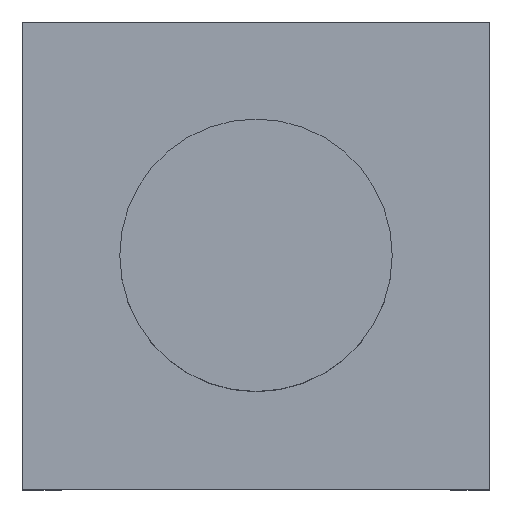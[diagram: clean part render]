
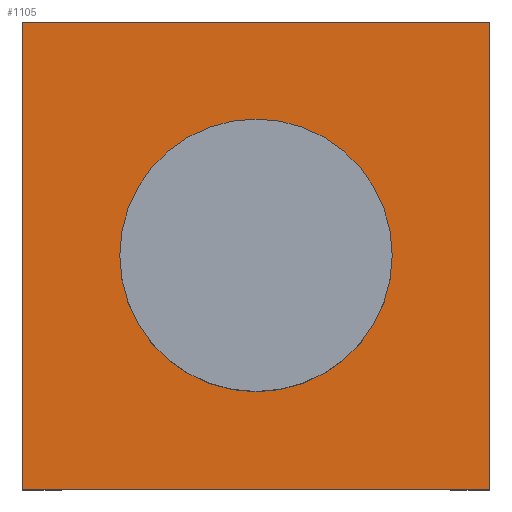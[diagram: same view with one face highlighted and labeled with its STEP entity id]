
A CAD part, top view. The second image highlights one B-rep face of the part: STEP entity #1105.
In plain terms, the highlighted planar face has unit normal (0, 0, 1).
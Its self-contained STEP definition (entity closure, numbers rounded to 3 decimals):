
#10 = EDGE_CURVE ( 'NONE', #691, #807, #1114, .T. ) ;
#16 = CARTESIAN_POINT ( 'NONE',  ( -3., -3., 4. ) ) ;
#87 = CARTESIAN_POINT ( 'NONE',  ( -3., 3., 4. ) ) ;
#100 = DIRECTION ( 'NONE',  ( 0., 1., 0. ) ) ;
#104 = EDGE_CURVE ( 'NONE', #1141, #691, #459, .T. ) ;
#127 = CARTESIAN_POINT ( 'NONE',  ( -1.75, 0., 4. ) ) ;
#161 = CARTESIAN_POINT ( 'NONE',  ( 3., -3., 4. ) ) ;
#198 = DIRECTION ( 'NONE',  ( 0., 0., -1. ) ) ;
#230 = DIRECTION ( 'NONE',  ( 0., -1., 0. ) ) ;
#232 = ORIENTED_EDGE ( 'NONE', *, *, #10, .F. ) ;
#278 = ORIENTED_EDGE ( 'NONE', *, *, #1129, .F. ) ;
#282 = VECTOR ( 'NONE', #230, 1000. ) ;
#284 = VECTOR ( 'NONE', #722, 1000. ) ;
#311 = EDGE_LOOP ( 'NONE', ( #872 ) ) ;
#324 = CARTESIAN_POINT ( 'NONE',  ( 3., 3., 4. ) ) ;
#436 = FACE_OUTER_BOUND ( 'NONE', #1298, .T. ) ;
#446 = CIRCLE ( 'NONE', #1115, 1.75 ) ;
#459 = LINE ( 'NONE', #324, #282 ) ;
#462 = CARTESIAN_POINT ( 'NONE',  ( -3., -3., 4. ) ) ;
#538 = CARTESIAN_POINT ( 'NONE',  ( 0., 0., 4. ) ) ;
#569 = EDGE_CURVE ( 'NONE', #972, #1141, #928, .T. ) ;
#631 = FACE_BOUND ( 'NONE', #311, .T. ) ;
#644 = CARTESIAN_POINT ( 'NONE',  ( 3., -3., 4. ) ) ;
#690 = DIRECTION ( 'NONE',  ( 0., 0., 1. ) ) ;
#691 = VERTEX_POINT ( 'NONE', #644 ) ;
#722 = DIRECTION ( 'NONE',  ( 1., 0., 0. ) ) ;
#784 = CARTESIAN_POINT ( 'NONE',  ( 0., 0., 4. ) ) ;
#805 = VECTOR ( 'NONE', #100, 1000. ) ;
#807 = VERTEX_POINT ( 'NONE', #462 ) ;
#834 = CARTESIAN_POINT ( 'NONE',  ( -3., 3., 4. ) ) ;
#866 = VERTEX_POINT ( 'NONE', #127 ) ;
#872 = ORIENTED_EDGE ( 'NONE', *, *, #1162, .F. ) ;
#898 = DIRECTION ( 'NONE',  ( -1., 0., 0. ) ) ;
#928 = LINE ( 'NONE', #87, #284 ) ;
#972 = VERTEX_POINT ( 'NONE', #834 ) ;
#1105 = ADVANCED_FACE ( 'NONE', ( #631, #436 ), #1158, .F. ) ;
#1114 = LINE ( 'NONE', #161, #1358 ) ;
#1115 = AXIS2_PLACEMENT_3D ( 'NONE', #784, #690, #1207 ) ;
#1127 = CARTESIAN_POINT ( 'NONE',  ( 3., 3., 4. ) ) ;
#1129 = EDGE_CURVE ( 'NONE', #807, #972, #1283, .T. ) ;
#1141 = VERTEX_POINT ( 'NONE', #1127 ) ;
#1158 = PLANE ( 'NONE',  #1235 ) ;
#1162 = EDGE_CURVE ( 'NONE', #866, #866, #446, .T. ) ;
#1207 = DIRECTION ( 'NONE',  ( -1., 0., 0. ) ) ;
#1235 = AXIS2_PLACEMENT_3D ( 'NONE', #538, #198, #1257 ) ;
#1257 = DIRECTION ( 'NONE',  ( -1., 0., 0. ) ) ;
#1283 = LINE ( 'NONE', #16, #805 ) ;
#1290 = ORIENTED_EDGE ( 'NONE', *, *, #569, .F. ) ;
#1298 = EDGE_LOOP ( 'NONE', ( #232, #1319, #1290, #278 ) ) ;
#1319 = ORIENTED_EDGE ( 'NONE', *, *, #104, .F. ) ;
#1358 = VECTOR ( 'NONE', #898, 1000. ) ;
